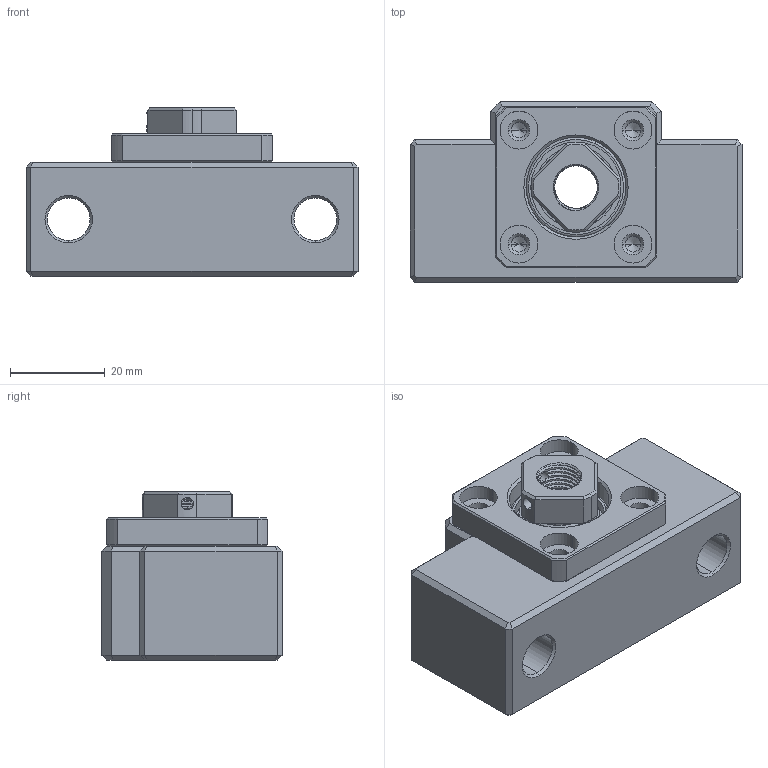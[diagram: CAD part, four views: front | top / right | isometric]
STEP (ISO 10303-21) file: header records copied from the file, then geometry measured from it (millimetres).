
FILE_DESCRIPTION (( 'STEP AP203' ), '1' );
FILE_NAME ('LK10組合圖.STEP', '2010-08-11T11:15:53', ( '' ), ( '' ), 'SwSTEP 2.0', 'SolidWorks 2008', '' );
FILE_SCHEMA (( 'CONFIG_CONTROL_DESIGN' ));
Length unit declared in the file: millimetre
Products named in the file (1): LK10組合圖
Bounding box: 70 x 38 x 35.5 mm (x, y, z)
Volume: 51178.4 mm3; surface area: 25908.4 mm2
Topology: 29 solids, 29 shells, 437 faces, 1016 edges, 608 vertices
Faces by surface type: cylinder 121, plane 101, torus 90, cone 74, sphere 36, bspline 15
Entity records: 18838 total; most frequent: CARTESIAN_POINT 9357, DIRECTION 2110, ORIENTED_EDGE 1836, EDGE_CURVE 918, AXIS2_PLACEMENT_3D 900, VERTEX_POINT 554, EDGE_LOOP 490, CIRCLE 477
